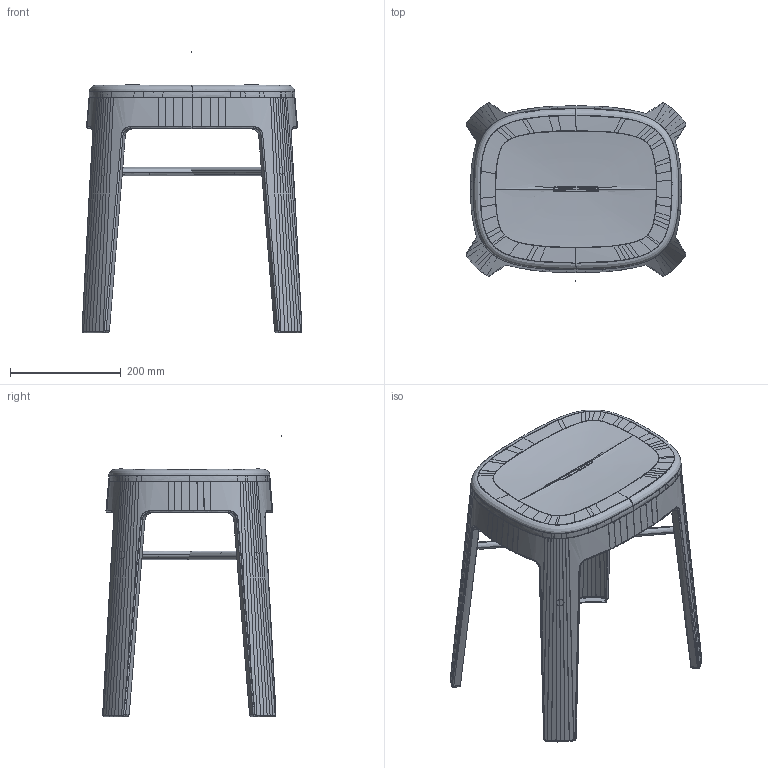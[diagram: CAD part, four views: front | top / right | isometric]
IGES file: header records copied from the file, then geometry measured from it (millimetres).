
Start section: START RECORD GO HERE.
Global section: file name: ombra_stool_45h.igs; native system: DASSAULT SYSTEMES CATIA Version 5-6 Release 2017 - www.3ds.com; preprocessor: V5-6R2017_5.27.0.0.10-19-2016.20.00; author: RAFA; organization: RAFA-PC; date: 20181017.170733; units: millimetre
Bounding box: 397.66 x 322.95 x 509.26 mm (x, y, z)
Surface area: 921580.9 mm2 (no closed solid volume)
Topology: 0 solids, 0 shells, 780 faces, 3327 edges, 3342 vertices
Faces by surface type: bspline 769, plane 11
